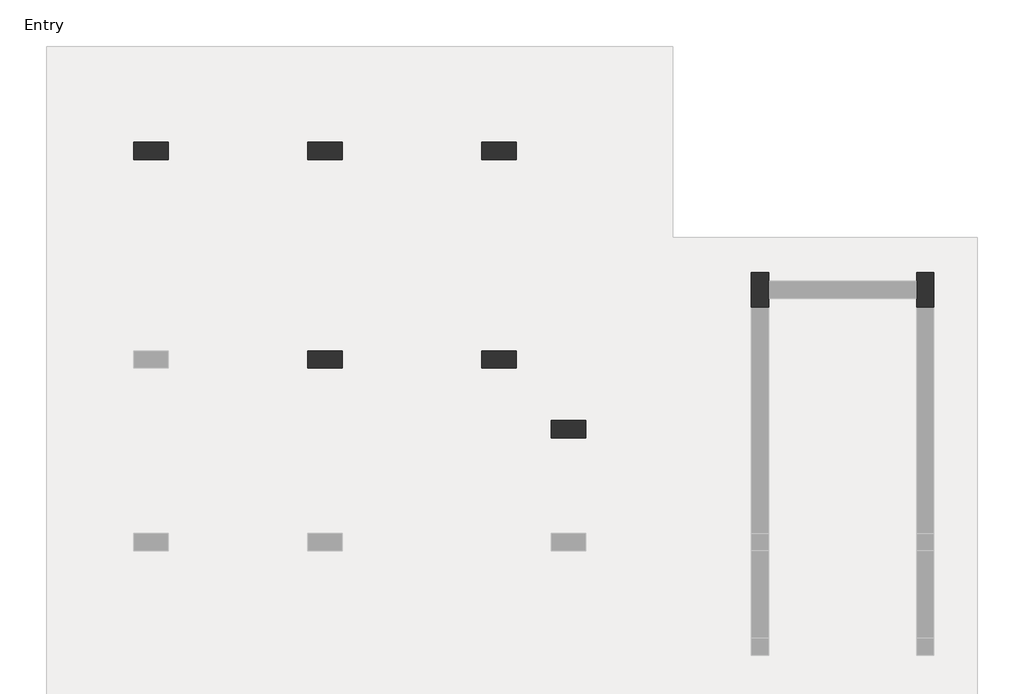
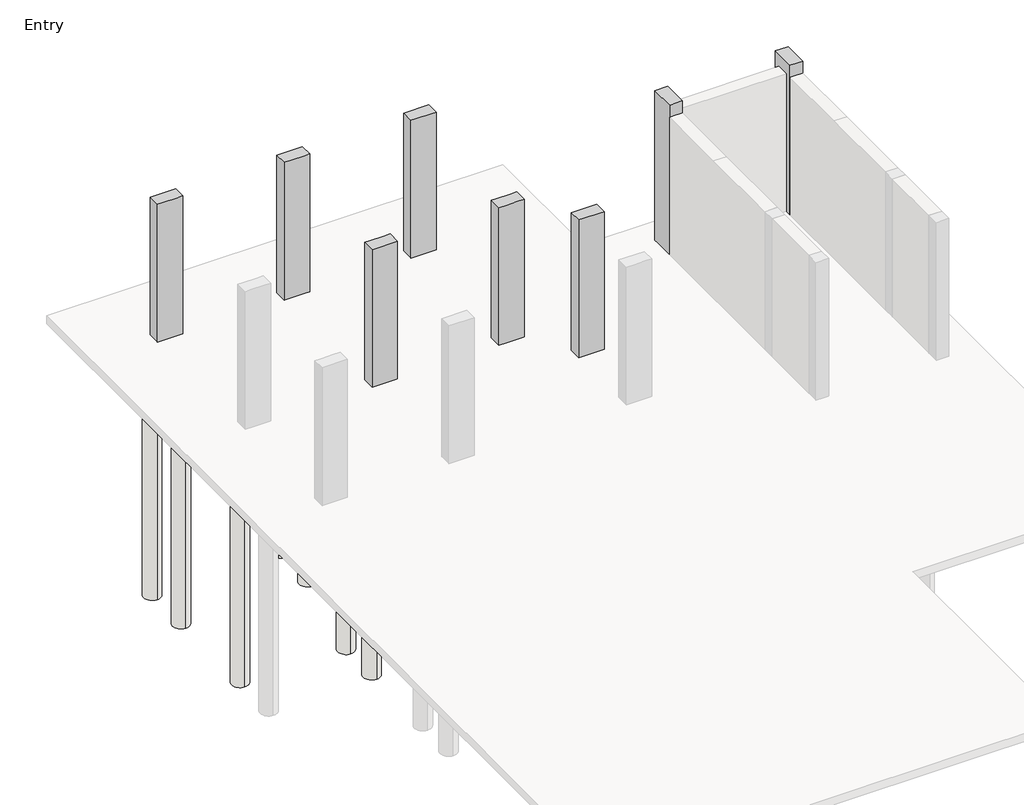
# One storey, part 3 of 3: 31 slabs, 15 columns, 3 footings.
"""IFC4 building model written with IfcOpenShell, lengths in millimetres."""

import ifcopenshell
import ifcopenshell.guid

model = None  # the IFC model being written
_history = None  # IfcOwnerHistory: only IFC2X3 demands one
_inside = {}  # id of a spatial element -> (the spatial element, [elements in it])
_under = {}  # id of a project, library or spatial element -> (it, [spatial elements below it])
_declared = {}  # id of a project -> (the project, [libraries it declares])
_typed = {}  # id of a type object -> (the type object, [elements of that type])
_made_of = {}  # id of a material, layer set ... -> (it, [elements and type objects made of it])


def new_model(schema):
    """Start an empty IFC model of exactly this schema.

    Asked for "IFC4X3", IfcOpenShell would pick the latest addendum, in which some entities
    have other attributes; the version numbers below select the first issue.
    IFC2X3 requires an IfcOwnerHistory on every rooted entity: one is made here for all.
    """
    global model, _history
    if schema == "IFC4X3":
        model = ifcopenshell.file(schema_version=(4, 3, 0, 0))
    else:
        model = ifcopenshell.file(schema=schema)
    _inside.clear()
    _under.clear()
    _declared.clear()
    _typed.clear()
    _made_of.clear()
    _history = None
    if model.schema == "IFC2X3":
        org = make("IfcOrganization", Name="unknown")
        user = make(
            "IfcPersonAndOrganization",
            ThePerson=make("IfcPerson", FamilyName="unknown"),
            TheOrganization=org,
        )
        app = make(
            "IfcApplication",
            ApplicationDeveloper=org,
            Version="unknown",
            ApplicationFullName="unknown",
            ApplicationIdentifier="unknown",
        )
        _history = make(
            "IfcOwnerHistory",
            OwningUser=user,
            OwningApplication=app,
            ChangeAction="ADDED",
            CreationDate=0,
        )
    return model


def make(cls, **values):
    """One entity of the class cls with the attributes given. An attribute that is None is left unset."""
    return model.create_entity(
        cls, **{name: value for name, value in values.items() if value is not None}
    )


def rooted(cls, **values):
    """An entity with a GlobalId (a new one), such as an element, a storey or a relation."""
    return make(cls, GlobalId=ifcopenshell.guid.new(), OwnerHistory=_history, **values)


def si_unit(unit_type, name, prefix=None):
    """IfcSIUnit, for example si_unit("LENGTHUNIT", "METRE", prefix="MILLI")."""
    return make("IfcSIUnit", UnitType=unit_type, Prefix=prefix, Name=name)


def assignment(units):
    """IfcUnitAssignment: the units of a project."""
    return None if units is None else make("IfcUnitAssignment", Units=units)


def point(xyz):
    """IfcCartesianPoint."""
    return None if xyz is None else make("IfcCartesianPoint", Coordinates=xyz)


def direction(xyz):
    """IfcDirection."""
    return None if xyz is None else make("IfcDirection", DirectionRatios=xyz)


def frame(location, z_axis=None, x_axis=None):
    """IfcAxis2Placement3D, a coordinate frame: its origin and axes. An axis left out is left unset."""
    return make(
        "IfcAxis2Placement3D",
        Location=point(location),
        Axis=direction(z_axis),
        RefDirection=direction(x_axis),
    )


def frame_2d(location, x_axis=None):
    """IfcAxis2Placement2D, a coordinate frame in the plane: its origin and x axis."""
    return make(
        "IfcAxis2Placement2D", Location=point(location), RefDirection=direction(x_axis)
    )


def origin():
    """The frame at (0, 0, 0) with its axes left unset."""
    return frame((0.0, 0.0, 0.0))


def place(relative_to, where):
    """IfcLocalPlacement: puts the frame where relative to a parent placement (None: the world)."""
    return make(
        "IfcLocalPlacement", PlacementRelTo=relative_to, RelativePlacement=where
    )


def context(
    kind, dimensions, precision=None, world=None, true_north=None, identifier=None
):
    """IfcGeometricRepresentationContext, for example the 3D "Model" context."""
    return make(
        "IfcGeometricRepresentationContext",
        ContextIdentifier=identifier,
        ContextType=kind,
        CoordinateSpaceDimension=dimensions,
        Precision=precision,
        WorldCoordinateSystem=world,
        TrueNorth=true_north,
    )


def project(units=None, contexts=None):
    """IfcProject with its units and contexts."""
    return rooted(
        "IfcProject",
        Name="project",
        RepresentationContexts=contexts,
        UnitsInContext=assignment(units),
    )


def spatial(cls, under=None, at=None, **own):
    """A site, building, storey or space (cls), placed at a placement, below another one or the project."""
    s = rooted(cls, ObjectPlacement=at, **own)
    if under is not None:
        _under.setdefault(under.id(), (under, []))[1].append(s)
    return s


def polyline(points):
    """IfcPolyline through the points."""
    return make("IfcPolyline", Points=[point(p) for p in points])


def circle_curve(where, radius):
    """IfcCircle in the frame where."""
    return make("IfcCircle", Position=where, Radius=radius)


def trimmed(basis, trim1, trim2, sense, master):
    """IfcTrimmedCurve: the piece of a basis curve between two trims."""
    return make(
        "IfcTrimmedCurve",
        BasisCurve=basis,
        Trim1=trim1,
        Trim2=trim2,
        SenseAgreement=sense,
        MasterRepresentation=master,
    )


def segment(curve, same_sense, transition):
    """IfcCompositeCurveSegment."""
    return make(
        "IfcCompositeCurveSegment",
        Transition=transition,
        SameSense=same_sense,
        ParentCurve=curve,
    )


def composite_curve(segments, self_intersect=None):
    """IfcCompositeCurve: segments joined end to end."""
    return make("IfcCompositeCurve", Segments=segments, SelfIntersect=self_intersect)


def outline(outer, holes=None, kind="AREA"):
    """IfcArbitraryClosedProfileDef: a profile drawn as a closed curve; with holes, ...WithVoids."""
    if holes is None:
        return make("IfcArbitraryClosedProfileDef", ProfileType=kind, OuterCurve=outer)
    return make(
        "IfcArbitraryProfileDefWithVoids",
        ProfileType=kind,
        OuterCurve=outer,
        InnerCurves=holes,
    )


def extrude(swept, where, along, depth):
    """IfcExtrudedAreaSolid: the profile swept, set in the frame where, extruded along a direction by depth."""
    return make(
        "IfcExtrudedAreaSolid",
        SweptArea=swept,
        Position=where,
        ExtrudedDirection=direction(along),
        Depth=depth,
    )


def faces_of(points, faces, orient=None, outer=None):
    """IfcFace entities. A face is a list of loops; a loop is a list of indices into points, from 0.

    orient and outer hold one flag for each loop. By default every Orientation is true, the
    first loop of a face is its IfcFaceOuterBound and the others are IfcFaceBound.
    """
    made = []
    for i, loops in enumerate(faces):
        bounds = []
        for j, loop in enumerate(loops):
            is_outer = j == 0 if outer is None else outer[i][j]
            bounds.append(
                make(
                    "IfcFaceOuterBound" if is_outer else "IfcFaceBound",
                    Bound=make("IfcPolyLoop", Polygon=[points[k] for k in loop]),
                    Orientation=True if orient is None else orient[i][j],
                )
            )
        made.append(make("IfcFace", Bounds=bounds))
    return made


def faceted_brep(points, faces, orient=None, outer=None, voids=None):
    """IfcFacetedBrep: a solid bounded by flat faces; with voids (closed shells), ...WithVoids."""
    shared = [point(p) for p in points]
    hull = make("IfcClosedShell", CfsFaces=faces_of(shared, faces, orient, outer))
    if voids is None:
        return make("IfcFacetedBrep", Outer=hull)
    return make(
        "IfcFacetedBrepWithVoids",
        Outer=hull,
        Voids=[
            make(cls, CfsFaces=faces_of(shared, fs, o, b)) for cls, fs, o, b in voids
        ],
    )


def shape(context_of_items, identifier, shape_type, items):
    """IfcShapeRepresentation: the items that make up one representation, for example the "Body"."""
    return make(
        "IfcShapeRepresentation",
        ContextOfItems=context_of_items,
        RepresentationIdentifier=identifier,
        RepresentationType=shape_type,
        Items=items,
    )


def made_of(thing, what):
    """Note that an element or type object is made of a material, layer set ...; save() writes the relation."""
    if what is not None:
        _made_of.setdefault(what.id(), (what, []))[1].append(thing)
    return thing


def element(
    cls,
    number,
    at=None,
    inside=None,
    cuts=None,
    type_object=None,
    material=None,
    context=None,
    identifier="Body",
    shape_type=None,
    held_by="IfcProductDefinitionShape",
    body=None,
    shapes=None,
    **own,
):
    """One element of the class cls, such as IfcWall. Its Tag is "e" and its number.

    at: its placement. inside: the storey or other place that contains it. cuts: it is an
    opening in that element (IfcRelVoidsElement). A single representation is given by context,
    identifier, shape_type and body (its items); several are given by shapes. held_by: the class
    of the entity that holds the representations. save() writes the other relations.
    """
    e = rooted(cls, Tag="e%d" % number, ObjectPlacement=at, **own)
    if body is not None:
        shapes = [shape(context, identifier, shape_type, body)]
    if shapes is not None:
        e.Representation = make(held_by, Representations=shapes)
    if inside is not None:
        _inside.setdefault(inside.id(), (inside, []))[1].append(e)
    if cuts is not None:
        rooted(
            "IfcRelVoidsElement", RelatingBuildingElement=cuts, RelatedOpeningElement=e
        )
    if type_object is not None:
        _typed.setdefault(type_object.id(), (type_object, []))[1].append(e)
    return made_of(e, material)


def aggregate(whole, parts):
    """IfcRelAggregates: a whole, such as a stair, and the parts it consists of."""
    return rooted("IfcRelAggregates", RelatingObject=whole, RelatedObjects=parts)


def save(model, path):
    """Write the relations noted so far, then the file.

    IfcRelAggregates (storeys below a building ...), IfcRelContainedInSpatialStructure (elements
    in a storey), IfcRelDefinesByType, IfcRelAssociatesMaterial and IfcRelDeclares: one each for
    every whole, place, type object, material and project.
    """
    for whole, parts in _under.values():
        aggregate(whole, parts)
    for where, things in _inside.values():
        rooted(
            "IfcRelContainedInSpatialStructure",
            RelatedElements=things,
            RelatingStructure=where,
        )
    for kind, things in _typed.values():
        rooted("IfcRelDefinesByType", RelatedObjects=things, RelatingType=kind)
    for what, things in _made_of.values():
        rooted("IfcRelAssociatesMaterial", RelatedObjects=things, RelatingMaterial=what)
    for by, libraries in _declared.values():
        rooted("IfcRelDeclares", RelatingContext=by, RelatedDefinitions=libraries)
    model.write(path)


model = new_model("IFC4")

# Units and contexts
model_context = context("Model", 3, world=origin())
ifc_project = project(units=[si_unit("LENGTHUNIT", "METRE", prefix="MILLI")], contexts=[model_context])

# Site, building, storey
site = spatial("IfcSite", under=ifc_project)
building = spatial("IfcBuilding", under=site)
storey = spatial("IfcBuildingStorey", under=building, Name="Entry", Elevation=0.0)

# Columns
placement = place(None, origin())
element("IfcColumn", 1, ObjectType="Concrete-Rectangular-Column : 12 x 24", at=placement, inside=storey, context=model_context, shape_type="Brep", body=[
    faceted_brep([(-15677.5554735, 14646.9867088, 0.0), (-15067.9554735, 14646.9867088, 0.0), (-15067.9554735, 14342.1867088, 0.0), (-15677.5554735, 14342.1867088, 0.0), (-15677.5554735, 14646.9867088, 3505.2), (-15067.9554735, 14646.9867088, 3505.2), (-15067.9554735, 14646.9867088, 2895.6), (-15067.9554735, 14342.1867088, 3505.2), (-15067.9554735, 14342.1867088, 2895.6), (-15220.3554735, 14342.1867088, 3505.2), (-15525.1554735, 14342.1867088, 3505.2), (-15677.5554735, 14342.1867088, 3505.2)], [[[0, 1, 2, 3]], [[4, 5, 6, 1, 0]], [[5, 7, 8, 2, 1, 6]], [[7, 9, 10, 11, 3, 2, 8]], [[11, 4, 0, 3]], [[4, 11, 10, 9, 7, 5]]]),
])
element("IfcColumn", 2, ObjectType="Concrete-Rectangular-Column : 12 x 24", at=placement, inside=storey, context=model_context, shape_type="Brep", body=[
    faceted_brep([(-12629.5554735, 14646.9867088, 0.0), (-12019.9554735, 14646.9867088, 0.0), (-12019.9554735, 14342.1867088, 0.0), (-12629.5554735, 14342.1867088, 0.0), (-12629.5554735, 14646.9867088, 3505.2), (-12019.9554735, 14646.9867088, 3505.2), (-12019.9554735, 14646.9867088, 2895.6), (-12629.5554735, 14646.9867088, 2895.6), (-12019.9554735, 14342.1867088, 3505.2), (-12019.9554735, 14342.1867088, 2895.6), (-12172.3554735, 14342.1867088, 3505.2), (-12477.1554735, 14342.1867088, 3505.2), (-12629.5554735, 14342.1867088, 3505.2), (-12629.5554735, 14342.1867088, 2895.6)], [[[0, 1, 2, 3]], [[4, 5, 6, 1, 0, 7]], [[5, 8, 9, 2, 1, 6]], [[8, 10, 11, 12, 13, 3, 2, 9]], [[12, 4, 7, 0, 3, 13]], [[4, 12, 11, 10, 8, 5]]]),
])
element("IfcColumn", 3, ObjectType="Concrete-Rectangular-Column : 12 x 24", at=placement, inside=storey, context=model_context, shape_type="Brep", body=[
    faceted_brep([(-9581.5554735, 14646.9867088, 0.0), (-8971.9554735, 14646.9867088, 0.0), (-8971.9554735, 14342.1867088, 0.0), (-9581.5554735, 14342.1867088, 0.0), (-9581.5554735, 14646.9867088, 3505.2), (-8971.9554735, 14646.9867088, 3505.2), (-9581.5554735, 14646.9867088, 2895.6), (-8971.9554735, 14342.1867088, 3505.2), (-9124.3554735, 14342.1867088, 3505.2), (-9429.1554735, 14342.1867088, 3505.2), (-9581.5554735, 14342.1867088, 3505.2), (-9581.5554735, 14342.1867088, 2895.6)], [[[0, 1, 2, 3]], [[4, 5, 1, 0, 6]], [[5, 7, 2, 1]], [[7, 8, 9, 10, 11, 3, 2]], [[10, 4, 6, 0, 3, 11]], [[4, 10, 9, 8, 7, 5]]]),
])
element("IfcColumn", 4, ObjectType="Concrete-Rectangular-Column : 12 x 24", at=placement, inside=storey, context=model_context, shape_type="Brep", body=[
    faceted_brep([(-12629.5554735, 10989.3867088, 0.0), (-12019.9554735, 10989.3867088, 0.0), (-12019.9554735, 10684.5867088, 0.0), (-12629.5554735, 10684.5867088, 0.0), (-12629.5554735, 10989.3867088, 3505.2), (-12477.1554735, 10989.3867088, 3505.2), (-12172.3554735, 10989.3867088, 3505.2), (-12019.9554735, 10989.3867088, 3505.2), (-12019.9554735, 10989.3867088, 2895.6), (-12629.5554735, 10989.3867088, 2895.6), (-12019.9554735, 10684.5867088, 3505.2), (-12019.9554735, 10684.5867088, 2895.6), (-12172.3554735, 10684.5867088, 3505.2), (-12477.1554735, 10684.5867088, 3505.2), (-12629.5554735, 10684.5867088, 3505.2), (-12629.5554735, 10684.5867088, 2895.6)], [[[0, 1, 2, 3]], [[4, 5, 6, 7, 8, 1, 0, 9]], [[7, 10, 11, 2, 1, 8]], [[10, 12, 13, 14, 15, 3, 2, 11]], [[14, 4, 9, 0, 3, 15]], [[4, 14, 13, 12, 10, 7, 6, 5]]]),
])
element("IfcColumn", 5, ObjectType="Concrete-Rectangular-Column : 12 x 24", at=placement, inside=storey, context=model_context, shape_type="Brep", body=[
    faceted_brep([(-9581.5554735, 10989.3867088, 0.0), (-8971.9554735, 10989.3867088, 0.0), (-8971.9554735, 10684.5867088, 0.0), (-9581.5554735, 10684.5867088, 0.0), (-9581.5554735, 10989.3867088, 3505.2), (-9429.1554735, 10989.3867088, 3505.2), (-9124.3554735, 10989.3867088, 3505.2), (-8971.9554735, 10989.3867088, 3505.2), (-9581.5554735, 10989.3867088, 2895.6), (-8971.9554735, 10684.5867088, 3505.2), (-9124.3554735, 10684.5867088, 3505.2), (-9429.1554735, 10684.5867088, 3505.2), (-9581.5554735, 10684.5867088, 3505.2), (-9581.5554735, 10684.5867088, 2895.6)], [[[0, 1, 2, 3]], [[4, 5, 6, 7, 1, 0, 8]], [[7, 9, 2, 1]], [[9, 10, 11, 12, 13, 3, 2]], [[12, 4, 8, 0, 3, 13]], [[4, 12, 11, 10, 9, 7, 6, 5]]]),
])
element("IfcColumn", 6, ObjectType="Concrete-Rectangular-Column : 12 x 24", at=placement, inside=storey, context=model_context, shape_type="Brep", body=[
    faceted_brep([(-8362.3554735, 9770.1867088, 0.0), (-7752.7554735, 9770.1867088, 0.0), (-7752.7554735, 9465.3867088, 0.0), (-8362.3554735, 9465.3867088, 0.0), (-8362.3554735, 9770.1867088, 3505.2), (-7752.7554735, 9770.1867088, 3505.2), (-8362.3554735, 9770.1867088, 2895.6), (-7752.7554735, 9465.3867088, 3505.2), (-7905.1554735, 9465.3867088, 3505.2), (-8209.9554735, 9465.3867088, 3505.2), (-8362.3554735, 9465.3867088, 3505.2), (-8362.3554735, 9465.3867088, 2895.6)], [[[0, 1, 2, 3]], [[4, 5, 1, 0, 6]], [[5, 7, 2, 1]], [[7, 8, 9, 10, 11, 3, 2]], [[10, 4, 6, 0, 3, 11]], [[4, 10, 9, 8, 7, 5]]]),
])
element("IfcColumn", 7, ObjectType="Concrete-Rectangular-Column : 12 x 24", at=placement, inside=storey, context=model_context, shape_type="Brep", body=[
    faceted_brep([(-4552.3554735, 12360.9867088, 0.0), (-4552.3554735, 12208.5867088, 0.0), (-4552.3554735, 11903.7867088, 0.0), (-4552.3554735, 11751.3867088, 0.0), (-4857.1554735, 11751.3867088, 0.0), (-4857.1554735, 12360.9867088, 0.0), (-4552.3554735, 12360.9867088, 3810.0), (-4552.3554735, 11751.3867088, 3810.0), (-4552.3554735, 11751.3867088, 3505.2), (-4857.1554735, 11751.3867088, 3810.0), (-4857.1554735, 11751.3867088, 3505.2), (-4857.1554735, 12360.9867088, 3810.0)], [[[0, 1, 2, 3, 4, 5]], [[6, 7, 8, 3, 2, 1, 0]], [[7, 9, 10, 4, 3, 8]], [[9, 11, 5, 4, 10]], [[11, 6, 0, 5]], [[6, 11, 9, 7]]]),
])
element("IfcColumn", 8, ObjectType="Concrete-Rectangular-Column : 12 x 24", at=placement, inside=storey, context=model_context, shape_type="Brep", body=[
    faceted_brep([(-1656.7554735, 12360.9867088, 0.0), (-1656.7554735, 11751.3867088, 0.0), (-1961.5554735, 11751.3867088, 0.0), (-1961.5554735, 11903.7867088, 0.0), (-1961.5554735, 12208.5867088, 0.0), (-1961.5554735, 12360.9867088, 0.0), (-1656.7554735, 12360.9867088, 3810.0), (-1656.7554735, 11751.3867088, 3810.0), (-1656.7554735, 11751.3867088, 3505.2), (-1961.5554735, 11751.3867088, 3810.0), (-1961.5554735, 11751.3867088, 3505.2), (-1961.5554735, 12360.9867088, 3810.0)], [[[0, 1, 2, 3, 4, 5]], [[6, 7, 8, 1, 0]], [[7, 9, 10, 2, 1, 8]], [[9, 11, 5, 4, 3, 2, 10]], [[11, 6, 0, 5]], [[6, 11, 9, 7]]]),
])
element("IfcColumn", 9, ObjectType="Concrete-Rectangular-Column : 12 x 24", at=placement, inside=storey, context=model_context, shape_type="Brep", body=[
    faceted_brep([(-15677.5554735, 14646.9867088, 0.0), (-15067.9554735, 14646.9867088, 0.0), (-15067.9554735, 14342.1867088, 0.0), (-15677.5554735, 14342.1867088, 0.0), (-15677.5554735, 14646.9867088, 3505.2), (-15067.9554735, 14646.9867088, 3505.2), (-15067.9554735, 14646.9867088, 2895.6), (-15067.9554735, 14342.1867088, 3505.2), (-15067.9554735, 14342.1867088, 2895.6), (-15220.3554735, 14342.1867088, 3505.2), (-15525.1554735, 14342.1867088, 3505.2), (-15677.5554735, 14342.1867088, 3505.2)], [[[0, 1, 2, 3]], [[4, 5, 6, 1, 0]], [[5, 7, 8, 2, 1, 6]], [[7, 9, 10, 11, 3, 2, 8]], [[11, 4, 0, 3]], [[4, 11, 10, 9, 7, 5]]]),
])
element("IfcColumn", 10, ObjectType="Concrete-Rectangular-Column : 12 x 24", at=placement, inside=storey, context=model_context, shape_type="Brep", body=[
    faceted_brep([(-12629.5554735, 14646.9867088, 0.0), (-12019.9554735, 14646.9867088, 0.0), (-12019.9554735, 14342.1867088, 0.0), (-12629.5554735, 14342.1867088, 0.0), (-12629.5554735, 14646.9867088, 3505.2), (-12019.9554735, 14646.9867088, 3505.2), (-12019.9554735, 14646.9867088, 2895.6), (-12629.5554735, 14646.9867088, 2895.6), (-12019.9554735, 14342.1867088, 3505.2), (-12019.9554735, 14342.1867088, 2895.6), (-12172.3554735, 14342.1867088, 3505.2), (-12477.1554735, 14342.1867088, 3505.2), (-12629.5554735, 14342.1867088, 3505.2), (-12629.5554735, 14342.1867088, 2895.6)], [[[0, 1, 2, 3]], [[4, 5, 6, 1, 0, 7]], [[5, 8, 9, 2, 1, 6]], [[8, 10, 11, 12, 13, 3, 2, 9]], [[12, 4, 7, 0, 3, 13]], [[4, 12, 11, 10, 8, 5]]]),
])
element("IfcColumn", 11, ObjectType="Concrete-Rectangular-Column : 12 x 24", at=placement, inside=storey, context=model_context, shape_type="Brep", body=[
    faceted_brep([(-9581.5554735, 14646.9867088, 0.0), (-8971.9554735, 14646.9867088, 0.0), (-8971.9554735, 14342.1867088, 0.0), (-9581.5554735, 14342.1867088, 0.0), (-9581.5554735, 14646.9867088, 3505.2), (-8971.9554735, 14646.9867088, 3505.2), (-9581.5554735, 14646.9867088, 2895.6), (-8971.9554735, 14342.1867088, 3505.2), (-9124.3554735, 14342.1867088, 3505.2), (-9429.1554735, 14342.1867088, 3505.2), (-9581.5554735, 14342.1867088, 3505.2), (-9581.5554735, 14342.1867088, 2895.6)], [[[0, 1, 2, 3]], [[4, 5, 1, 0, 6]], [[5, 7, 2, 1]], [[7, 8, 9, 10, 11, 3, 2]], [[10, 4, 6, 0, 3, 11]], [[4, 10, 9, 8, 7, 5]]]),
])
element("IfcColumn", 12, ObjectType="Concrete-Rectangular-Column : 12 x 24", at=placement, inside=storey, context=model_context, shape_type="Brep", body=[
    faceted_brep([(-12629.5554735, 10989.3867088, 0.0), (-12019.9554735, 10989.3867088, 0.0), (-12019.9554735, 10684.5867088, 0.0), (-12629.5554735, 10684.5867088, 0.0), (-12629.5554735, 10989.3867088, 3505.2), (-12477.1554735, 10989.3867088, 3505.2), (-12172.3554735, 10989.3867088, 3505.2), (-12019.9554735, 10989.3867088, 3505.2), (-12019.9554735, 10989.3867088, 2895.6), (-12629.5554735, 10989.3867088, 2895.6), (-12019.9554735, 10684.5867088, 3505.2), (-12019.9554735, 10684.5867088, 2895.6), (-12172.3554735, 10684.5867088, 3505.2), (-12477.1554735, 10684.5867088, 3505.2), (-12629.5554735, 10684.5867088, 3505.2), (-12629.5554735, 10684.5867088, 2895.6)], [[[0, 1, 2, 3]], [[4, 5, 6, 7, 8, 1, 0, 9]], [[7, 10, 11, 2, 1, 8]], [[10, 12, 13, 14, 15, 3, 2, 11]], [[14, 4, 9, 0, 3, 15]], [[4, 14, 13, 12, 10, 7, 6, 5]]]),
])
element("IfcColumn", 13, ObjectType="Concrete-Rectangular-Column : 12 x 24", at=placement, inside=storey, context=model_context, shape_type="Brep", body=[
    faceted_brep([(-9581.5554735, 10989.3867088, 0.0), (-8971.9554735, 10989.3867088, 0.0), (-8971.9554735, 10684.5867088, 0.0), (-9581.5554735, 10684.5867088, 0.0), (-9581.5554735, 10989.3867088, 3505.2), (-9429.1554735, 10989.3867088, 3505.2), (-9124.3554735, 10989.3867088, 3505.2), (-8971.9554735, 10989.3867088, 3505.2), (-9581.5554735, 10989.3867088, 2895.6), (-8971.9554735, 10684.5867088, 3505.2), (-9124.3554735, 10684.5867088, 3505.2), (-9429.1554735, 10684.5867088, 3505.2), (-9581.5554735, 10684.5867088, 3505.2), (-9581.5554735, 10684.5867088, 2895.6)], [[[0, 1, 2, 3]], [[4, 5, 6, 7, 1, 0, 8]], [[7, 9, 2, 1]], [[9, 10, 11, 12, 13, 3, 2]], [[12, 4, 8, 0, 3, 13]], [[4, 12, 11, 10, 9, 7, 6, 5]]]),
])
element("IfcColumn", 14, ObjectType="Concrete-Rectangular-Column : 12 x 24", at=placement, inside=storey, context=model_context, shape_type="Brep", body=[
    faceted_brep([(-8362.3554735, 9770.1867088, 0.0), (-7752.7554735, 9770.1867088, 0.0), (-7752.7554735, 9465.3867088, 0.0), (-8362.3554735, 9465.3867088, 0.0), (-8362.3554735, 9770.1867088, 3505.2), (-7752.7554735, 9770.1867088, 3505.2), (-8362.3554735, 9770.1867088, 2895.6), (-7752.7554735, 9465.3867088, 3505.2), (-7905.1554735, 9465.3867088, 3505.2), (-8209.9554735, 9465.3867088, 3505.2), (-8362.3554735, 9465.3867088, 3505.2), (-8362.3554735, 9465.3867088, 2895.6)], [[[0, 1, 2, 3]], [[4, 5, 1, 0, 6]], [[5, 7, 2, 1]], [[7, 8, 9, 10, 11, 3, 2]], [[10, 4, 6, 0, 3, 11]], [[4, 10, 9, 8, 7, 5]]]),
])
element("IfcColumn", 15, ObjectType="Concrete-Rectangular-Column : 12 x 24", at=placement, inside=storey, context=model_context, shape_type="Brep", body=[
    faceted_brep([(-4552.3554735, 12360.9867088, 0.0), (-4552.3554735, 12208.5867088, 0.0), (-4552.3554735, 11903.7867088, 0.0), (-4552.3554735, 11751.3867088, 0.0), (-4857.1554735, 11751.3867088, 0.0), (-4857.1554735, 12360.9867088, 0.0), (-4552.3554735, 12360.9867088, 3810.0), (-4552.3554735, 11751.3867088, 3810.0), (-4552.3554735, 11751.3867088, 3505.2), (-4857.1554735, 11751.3867088, 3810.0), (-4857.1554735, 11751.3867088, 3505.2), (-4857.1554735, 12360.9867088, 3810.0)], [[[0, 1, 2, 3, 4, 5]], [[6, 7, 8, 3, 2, 1, 0]], [[7, 9, 10, 4, 3, 8]], [[9, 11, 5, 4, 10]], [[11, 6, 0, 5]], [[6, 11, 9, 7]]]),
])

# Footings
element("IfcFooting", 16, ObjectType="Bearing Footing - 36\" x 12\"", at=placement, inside=storey, context=model_context, shape_type="Brep", body=[
    faceted_brep([(-4552.3554735, 12513.3867088, -304.8), (-4552.3554735, 12462.5867088, -304.8), (-4552.3554735, 12462.5867088, -203.2), (-4552.3554735, 12513.3867088, -203.2), (-4552.3554735, 11649.7867088, -304.8), (-4552.3554735, 11598.9867088, -304.8), (-4552.3554735, 11598.9867088, -203.2), (-4552.3554735, 11649.7867088, -203.2), (-1961.5554735, 12462.5867088, -304.8), (-1961.5554735, 12513.3867088, -304.8), (-1961.5554735, 12513.3867088, -203.2), (-1961.5554735, 12462.5867088, -203.2), (-1961.5554735, 11598.9867088, -304.8), (-1961.5554735, 11649.7867088, -304.8), (-1961.5554735, 11649.7867088, -203.2), (-1961.5554735, 11598.9867088, -203.2), (-2710.8554735, 12462.5867088, -304.8), (-2710.8554735, 11649.7867088, -304.8), (-2266.3554735, 11598.9867088, -304.8), (-4247.5554735, 11598.9867088, -304.8), (-3803.0554735, 11649.7867088, -304.8), (-3803.0554735, 12462.5867088, -304.8), (-2266.3554735, 11598.9867088, -203.2), (-4247.5554735, 11598.9867088, -203.2), (-3803.0554735, 12462.5867088, -203.2), (-3803.0554735, 11649.7867088, -203.2), (-2710.8554735, 11649.7867088, -203.2), (-2710.8554735, 12462.5867088, -203.2)], [[[0, 1, 2, 3]], [[4, 5, 6, 7]], [[8, 9, 10, 11]], [[12, 13, 14, 15]], [[9, 0, 3, 10]], [[0, 9, 8, 16, 17, 13, 12, 18, 19, 5, 4, 20, 21, 1]], [[5, 19, 18, 12, 15, 22, 23, 6]], [[3, 2, 24, 25, 7, 6, 23, 22, 15, 14, 26, 27, 11, 10]], [[1, 21, 24, 2]], [[20, 4, 7, 25]], [[21, 20, 25, 24]], [[16, 8, 11, 27]], [[17, 16, 27, 26]], [[13, 17, 26, 14]]]),
])
element("IfcFooting", 17, ObjectType="Bearing Footing - 36\" x 12\"", at=placement, inside=storey, context=model_context, shape_type="SweptSolid", body=[
    extrude(outline(polyline([(-1351.9554735, 11649.7867088), (-1351.9554735, 7788.9867088), (-1402.7554735, 7788.9867088), (-1402.7554735, 8538.2867088), (-2215.5554735, 8538.2867088), (-2215.5554735, 7788.9867088), (-2266.3554735, 7788.9867088), (-2266.3554735, 11598.9867088), (-1961.5554735, 11598.9867088), (-1961.5554735, 11649.7867088), (-1351.9554735, 11649.7867088)])), frame((0.0, 0.0, -304.8), z_axis=(0.0, 0.0, 1.0), x_axis=(1.0, 0.0, 0.0)), (0.0, 0.0, 1.0), 101.6),
])
element("IfcFooting", 18, ObjectType="Bearing Footing - 36\" x 12\"", at=placement, inside=storey, context=model_context, shape_type="SweptSolid", body=[
    extrude(outline(polyline([(-5161.9554735, 7788.9867088), (-5161.9554735, 11649.7867088), (-4552.3554735, 11649.7867088), (-4552.3554735, 11598.9867088), (-4247.5554735, 11598.9867088), (-4247.5554735, 7788.9867088), (-4298.3554735, 7788.9867088), (-4298.3554735, 8538.2867088), (-5111.1554735, 8538.2867088), (-5111.1554735, 7788.9867088), (-5161.9554735, 7788.9867088)])), frame((0.0, 0.0, -304.8), z_axis=(0.0, 0.0, 1.0), x_axis=(1.0, 0.0, 0.0)), (0.0, 0.0, 1.0), 101.6),
])

# Slabs
element("IfcSlab", 19, ObjectType="Pile Cap-2 Pile : 31\"x61\"x35\"", at=placement, inside=storey, context=model_context, shape_type="SweptSolid", body=[
    extrude(outline(polyline([(-15779.1554735, 15396.2867088), (-14966.3554735, 15396.2867088), (-14966.3554735, 13592.8867088), (-15779.1554735, 13592.8867088), (-15779.1554735, 15396.2867088)])), frame((0.0, 0.0, -889.0), z_axis=(0.0, 0.0, 1.0), x_axis=(1.0, 0.0, 0.0)), (0.0, 0.0, 1.0), 685.8),
])
element("IfcSlab", 20, ObjectType="Pile Cap-2 Pile : 31\"x61\"x35\"", at=placement, inside=storey, context=model_context, shape_type="SweptSolid", body=[
    extrude(outline(polyline([(-12731.1554735, 15396.2867088), (-11918.3554735, 15396.2867088), (-11918.3554735, 13592.8867088), (-12731.1554735, 13592.8867088), (-12731.1554735, 15396.2867088)])), frame((0.0, 0.0, -889.0), z_axis=(0.0, 0.0, 1.0), x_axis=(1.0, 0.0, 0.0)), (0.0, 0.0, 1.0), 685.8),
])
element("IfcSlab", 21, ObjectType="Pile Cap-2 Pile : 31\"x61\"x35\"", at=placement, inside=storey, context=model_context, shape_type="SweptSolid", body=[
    extrude(outline(polyline([(-9683.1554735, 15396.2867088), (-8870.3554735, 15396.2867088), (-8870.3554735, 13592.8867088), (-9683.1554735, 13592.8867088), (-9683.1554735, 15396.2867088)])), frame((0.0, 0.0, -889.0), z_axis=(0.0, 0.0, 1.0), x_axis=(1.0, 0.0, 0.0)), (0.0, 0.0, 1.0), 685.8),
])
element("IfcSlab", 22, ObjectType="Pile Cap-2 Pile : 31\"x61\"x35\"", at=placement, inside=storey, context=model_context, shape_type="SweptSolid", body=[
    extrude(outline(polyline([(-9683.1554735, 11738.6867088), (-8870.3554735, 11738.6867088), (-8870.3554735, 9935.2867088), (-9683.1554735, 9935.2867088), (-9683.1554735, 11738.6867088)])), frame((0.0, 0.0, -889.0), z_axis=(0.0, 0.0, 1.0), x_axis=(1.0, 0.0, 0.0)), (0.0, 0.0, 1.0), 685.8),
])
element("IfcSlab", 23, ObjectType="Pile Cap-2 Pile : 31\"x61\"x35\"", at=placement, inside=storey, context=model_context, shape_type="Brep", body=[
    faceted_brep([(-3803.0554735, 12462.5867088, -889.0), (-3803.0554735, 11649.7867088, -889.0), (-5606.4554735, 11649.7867088, -889.0), (-5606.4554735, 12462.5867088, -889.0), (-5606.4554735, 12462.5867088, -203.2), (-4552.3554735, 12462.5867088, -203.2), (-3803.0554735, 12462.5867088, -203.2), (-3803.0554735, 12462.5867088, -304.8), (-5606.4554735, 11649.7867088, -203.2), (-3803.0554735, 11649.7867088, -304.8), (-3803.0554735, 11649.7867088, -203.2), (-4552.3554735, 11649.7867088, -203.2), (-5161.9554735, 11649.7867088, -203.2)], [[[0, 1, 2, 3]], [[0, 3, 4, 5, 6, 7]], [[3, 2, 8, 4]], [[2, 1, 9, 10, 11, 12, 8]], [[1, 0, 7, 6, 10, 9]], [[6, 5, 4, 8, 12, 11, 10]]]),
])
element("IfcSlab", 24, ObjectType="Pile Cap-2 Pile : 31\"x61\"x35\"", at=placement, inside=storey, context=model_context, shape_type="Brep", body=[
    faceted_brep([(-907.4554735, 12462.5867088, -889.0), (-907.4554735, 11649.7867088, -889.0), (-2710.8554735, 11649.7867088, -889.0), (-2710.8554735, 12462.5867088, -889.0), (-2710.8554735, 12462.5867088, -304.8), (-2710.8554735, 12462.5867088, -203.2), (-1961.5554735, 12462.5867088, -203.2), (-907.4554735, 12462.5867088, -203.2), (-2710.8554735, 11649.7867088, -304.8), (-2710.8554735, 11649.7867088, -203.2), (-907.4554735, 11649.7867088, -203.2), (-1351.9554735, 11649.7867088, -203.2), (-1961.5554735, 11649.7867088, -203.2)], [[[0, 1, 2, 3]], [[0, 3, 4, 5, 6, 7]], [[3, 2, 8, 9, 5, 4]], [[2, 1, 10, 11, 12, 9, 8]], [[1, 0, 7, 10]], [[7, 6, 5, 9, 12, 11, 10]]]),
])
element("IfcSlab", 25, ObjectType="Pile Cap-2 Pile : 31\"x61\"x35\"", at=placement, inside=storey, context=model_context, shape_type="SweptSolid", body=[
    extrude(outline(polyline([(-8463.9554735, 10519.4867088), (-7651.1554735, 10519.4867088), (-7651.1554735, 8716.0867088), (-8463.9554735, 8716.0867088), (-8463.9554735, 10519.4867088)])), frame((0.0, 0.0, -889.0), z_axis=(0.0, 0.0, 1.0), x_axis=(1.0, 0.0, 0.0)), (0.0, 0.0, 1.0), 685.8),
])
element("IfcSlab", 26, ObjectType="Pile Cap-4 Pile : 72\"x72\"x35\"", at=placement, inside=storey, context=model_context, shape_type="SweptSolid", body=[
    extrude(outline(polyline([(-13239.1554735, 11751.3867088), (-11410.3554735, 11751.3867088), (-11410.3554735, 9922.5867088), (-13239.1554735, 9922.5867088), (-13239.1554735, 11751.3867088)])), frame((0.0, 0.0, -889.0), z_axis=(0.0, 0.0, 1.0), x_axis=(1.0, 0.0, 0.0)), (0.0, 0.0, 1.0), 685.8),
])
element("IfcSlab", 27, ObjectType="Pile-Steel Pipe : 16\" Diameter", at=placement, inside=storey, context=model_context, shape_type="SweptSolid", body=[
    extrude(outline(composite_curve([segment(trimmed(circle_curve(frame_2d((-12858.1554735, 10303.5867088)), 203.2), [point((-12858.1554735, 10100.3867088))], [point((-12858.1554735, 10506.7867088))], False, "CARTESIAN"), True, "CONTINUOUS"), segment(trimmed(circle_curve(frame_2d((-12858.1554735, 10303.5867088)), 203.2), [point((-12858.1554735, 10506.7867088))], [point((-12858.1554735, 10100.3867088))], False, "CARTESIAN"), True, "CONTINUOUS")], self_intersect=False)), frame((0.0, 0.0, -6985.0), z_axis=(0.0, 0.0, 1.0), x_axis=(1.0, 0.0, 0.0)), (0.0, 0.0, 1.0), 6096.0),
])
element("IfcSlab", 28, ObjectType="Pile-Steel Pipe : 16\" Diameter", at=placement, inside=storey, context=model_context, shape_type="SweptSolid", body=[
    extrude(outline(composite_curve([segment(trimmed(circle_curve(frame_2d((-11791.3554735, 10303.5867088)), 203.2), [point((-11791.3554735, 10100.3867088))], [point((-11791.3554735, 10506.7867088))], False, "CARTESIAN"), True, "CONTINUOUS"), segment(trimmed(circle_curve(frame_2d((-11791.3554735, 10303.5867088)), 203.2), [point((-11791.3554735, 10506.7867088))], [point((-11791.3554735, 10100.3867088))], False, "CARTESIAN"), True, "CONTINUOUS")], self_intersect=False)), frame((0.0, 0.0, -6985.0), z_axis=(0.0, 0.0, 1.0), x_axis=(1.0, 0.0, 0.0)), (0.0, 0.0, 1.0), 6096.0),
])
element("IfcSlab", 29, ObjectType="Pile-Steel Pipe : 16\" Diameter", at=placement, inside=storey, context=model_context, shape_type="SweptSolid", body=[
    extrude(outline(composite_curve([segment(trimmed(circle_curve(frame_2d((-11791.3554735, 11370.3867088)), 203.2), [point((-11791.3554735, 11167.1867088))], [point((-11791.3554735, 11573.5867088))], False, "CARTESIAN"), True, "CONTINUOUS"), segment(trimmed(circle_curve(frame_2d((-11791.3554735, 11370.3867088)), 203.2), [point((-11791.3554735, 11573.5867088))], [point((-11791.3554735, 11167.1867088))], False, "CARTESIAN"), True, "CONTINUOUS")], self_intersect=False)), frame((0.0, 0.0, -6985.0), z_axis=(0.0, 0.0, 1.0), x_axis=(1.0, 0.0, 0.0)), (0.0, 0.0, 1.0), 6096.0),
])
element("IfcSlab", 30, ObjectType="Pile-Steel Pipe : 16\" Diameter", at=placement, inside=storey, context=model_context, shape_type="SweptSolid", body=[
    extrude(outline(composite_curve([segment(trimmed(circle_curve(frame_2d((-12858.1554735, 11370.3867088)), 203.2), [point((-12858.1554735, 11167.1867088))], [point((-12858.1554735, 11573.5867088))], False, "CARTESIAN"), True, "CONTINUOUS"), segment(trimmed(circle_curve(frame_2d((-12858.1554735, 11370.3867088)), 203.2), [point((-12858.1554735, 11573.5867088))], [point((-12858.1554735, 11167.1867088))], False, "CARTESIAN"), True, "CONTINUOUS")], self_intersect=False)), frame((0.0, 0.0, -6985.0), z_axis=(0.0, 0.0, 1.0), x_axis=(1.0, 0.0, 0.0)), (0.0, 0.0, 1.0), 6096.0),
])
element("IfcSlab", 31, ObjectType="Pile-Steel Pipe : 16\" Diameter", at=placement, inside=storey, context=model_context, shape_type="SweptSolid", body=[
    extrude(outline(composite_curve([segment(trimmed(circle_curve(frame_2d((-11791.3554735, 8169.9867088)), 203.2), [point((-11791.3554735, 7966.7867088))], [point((-11791.3554735, 8373.1867088))], False, "CARTESIAN"), True, "CONTINUOUS"), segment(trimmed(circle_curve(frame_2d((-11791.3554735, 8169.9867088)), 203.2), [point((-11791.3554735, 8373.1867088))], [point((-11791.3554735, 7966.7867088))], False, "CARTESIAN"), True, "CONTINUOUS")], self_intersect=False)), frame((0.0, 0.0, -6985.0), z_axis=(0.0, 0.0, 1.0), x_axis=(1.0, 0.0, 0.0)), (0.0, 0.0, 1.0), 6096.0),
])
element("IfcSlab", 32, ObjectType="Pile-Steel Pipe : 16\" Diameter", at=placement, inside=storey, context=model_context, shape_type="SweptSolid", body=[
    extrude(outline(composite_curve([segment(trimmed(circle_curve(frame_2d((-15372.7554735, 15091.4867088)), 203.2), [point((-15372.7554735, 14888.2867088))], [point((-15372.7554735, 15294.6867088))], False, "CARTESIAN"), True, "CONTINUOUS"), segment(trimmed(circle_curve(frame_2d((-15372.7554735, 15091.4867088)), 203.2), [point((-15372.7554735, 15294.6867088))], [point((-15372.7554735, 14888.2867088))], False, "CARTESIAN"), True, "CONTINUOUS")], self_intersect=False)), frame((0.0, 0.0, -6985.0), z_axis=(0.0, 0.0, 1.0), x_axis=(1.0, 0.0, 0.0)), (0.0, 0.0, 1.0), 6096.0),
])
element("IfcSlab", 33, ObjectType="Pile-Steel Pipe : 16\" Diameter", at=placement, inside=storey, context=model_context, shape_type="SweptSolid", body=[
    extrude(outline(composite_curve([segment(trimmed(circle_curve(frame_2d((-15372.7554735, 13897.6867088)), 203.2), [point((-15372.7554735, 13694.4867088))], [point((-15372.7554735, 14100.8867088))], False, "CARTESIAN"), True, "CONTINUOUS"), segment(trimmed(circle_curve(frame_2d((-15372.7554735, 13897.6867088)), 203.2), [point((-15372.7554735, 14100.8867088))], [point((-15372.7554735, 13694.4867088))], False, "CARTESIAN"), True, "CONTINUOUS")], self_intersect=False)), frame((0.0, 0.0, -6985.0), z_axis=(0.0, 0.0, 1.0), x_axis=(1.0, 0.0, 0.0)), (0.0, 0.0, 1.0), 6096.0),
])
element("IfcSlab", 34, ObjectType="Pile-Steel Pipe : 16\" Diameter", at=placement, inside=storey, context=model_context, shape_type="SweptSolid", body=[
    extrude(outline(composite_curve([segment(trimmed(circle_curve(frame_2d((-12324.7554735, 15091.4867088)), 203.2), [point((-12324.7554735, 14888.2867088))], [point((-12324.7554735, 15294.6867088))], False, "CARTESIAN"), True, "CONTINUOUS"), segment(trimmed(circle_curve(frame_2d((-12324.7554735, 15091.4867088)), 203.2), [point((-12324.7554735, 15294.6867088))], [point((-12324.7554735, 14888.2867088))], False, "CARTESIAN"), True, "CONTINUOUS")], self_intersect=False)), frame((0.0, 0.0, -6985.0), z_axis=(0.0, 0.0, 1.0), x_axis=(1.0, 0.0, 0.0)), (0.0, 0.0, 1.0), 6096.0),
])
element("IfcSlab", 35, ObjectType="Pile-Steel Pipe : 16\" Diameter", at=placement, inside=storey, context=model_context, shape_type="SweptSolid", body=[
    extrude(outline(composite_curve([segment(trimmed(circle_curve(frame_2d((-12324.7554735, 13897.6867088)), 203.2), [point((-12324.7554735, 13694.4867088))], [point((-12324.7554735, 14100.8867088))], False, "CARTESIAN"), True, "CONTINUOUS"), segment(trimmed(circle_curve(frame_2d((-12324.7554735, 13897.6867088)), 203.2), [point((-12324.7554735, 14100.8867088))], [point((-12324.7554735, 13694.4867088))], False, "CARTESIAN"), True, "CONTINUOUS")], self_intersect=False)), frame((0.0, 0.0, -6985.0), z_axis=(0.0, 0.0, 1.0), x_axis=(1.0, 0.0, 0.0)), (0.0, 0.0, 1.0), 6096.0),
])
element("IfcSlab", 36, ObjectType="Pile-Steel Pipe : 16\" Diameter", at=placement, inside=storey, context=model_context, shape_type="SweptSolid", body=[
    extrude(outline(composite_curve([segment(trimmed(circle_curve(frame_2d((-9276.7554735, 15091.4867088)), 203.2), [point((-9276.7554735, 14888.2867088))], [point((-9276.7554735, 15294.6867088))], False, "CARTESIAN"), True, "CONTINUOUS"), segment(trimmed(circle_curve(frame_2d((-9276.7554735, 15091.4867088)), 203.2), [point((-9276.7554735, 15294.6867088))], [point((-9276.7554735, 14888.2867088))], False, "CARTESIAN"), True, "CONTINUOUS")], self_intersect=False)), frame((0.0, 0.0, -6985.0), z_axis=(0.0, 0.0, 1.0), x_axis=(1.0, 0.0, 0.0)), (0.0, 0.0, 1.0), 6096.0),
])
element("IfcSlab", 37, ObjectType="Pile-Steel Pipe : 16\" Diameter", at=placement, inside=storey, context=model_context, shape_type="SweptSolid", body=[
    extrude(outline(composite_curve([segment(trimmed(circle_curve(frame_2d((-9276.7554735, 13897.6867088)), 203.2), [point((-9276.7554735, 13694.4867088))], [point((-9276.7554735, 14100.8867088))], False, "CARTESIAN"), True, "CONTINUOUS"), segment(trimmed(circle_curve(frame_2d((-9276.7554735, 13897.6867088)), 203.2), [point((-9276.7554735, 14100.8867088))], [point((-9276.7554735, 13694.4867088))], False, "CARTESIAN"), True, "CONTINUOUS")], self_intersect=False)), frame((0.0, 0.0, -6985.0), z_axis=(0.0, 0.0, 1.0), x_axis=(1.0, 0.0, 0.0)), (0.0, 0.0, 1.0), 6096.0),
])
element("IfcSlab", 38, ObjectType="Pile-Steel Pipe : 16\" Diameter", at=placement, inside=storey, context=model_context, shape_type="SweptSolid", body=[
    extrude(outline(composite_curve([segment(trimmed(circle_curve(frame_2d((-15372.7554735, 11433.8867088)), 203.2), [point((-15372.7554735, 11230.6867088))], [point((-15372.7554735, 11637.0867088))], False, "CARTESIAN"), True, "CONTINUOUS"), segment(trimmed(circle_curve(frame_2d((-15372.7554735, 11433.8867088)), 203.2), [point((-15372.7554735, 11637.0867088))], [point((-15372.7554735, 11230.6867088))], False, "CARTESIAN"), True, "CONTINUOUS")], self_intersect=False)), frame((0.0, 0.0, -6985.0), z_axis=(0.0, 0.0, 1.0), x_axis=(1.0, 0.0, 0.0)), (0.0, 0.0, 1.0), 6096.0),
])
element("IfcSlab", 39, ObjectType="Pile-Steel Pipe : 16\" Diameter", at=placement, inside=storey, context=model_context, shape_type="SweptSolid", body=[
    extrude(outline(composite_curve([segment(trimmed(circle_curve(frame_2d((-8057.5554735, 8233.4867088)), 203.2), [point((-8057.5554735, 8030.2867088))], [point((-8057.5554735, 8436.6867088))], False, "CARTESIAN"), True, "CONTINUOUS"), segment(trimmed(circle_curve(frame_2d((-8057.5554735, 8233.4867088)), 203.2), [point((-8057.5554735, 8436.6867088))], [point((-8057.5554735, 8030.2867088))], False, "CARTESIAN"), True, "CONTINUOUS")], self_intersect=False)), frame((0.0, 0.0, -6985.0), z_axis=(0.0, 0.0, 1.0), x_axis=(1.0, 0.0, 0.0)), (0.0, 0.0, 1.0), 6096.0),
])
element("IfcSlab", 40, ObjectType="Pile-Steel Pipe : 16\" Diameter", at=placement, inside=storey, context=model_context, shape_type="SweptSolid", body=[
    extrude(outline(composite_curve([segment(trimmed(circle_curve(frame_2d((-9276.7554735, 11433.8867088)), 203.2), [point((-9276.7554735, 11230.6867088))], [point((-9276.7554735, 11637.0867088))], False, "CARTESIAN"), True, "CONTINUOUS"), segment(trimmed(circle_curve(frame_2d((-9276.7554735, 11433.8867088)), 203.2), [point((-9276.7554735, 11637.0867088))], [point((-9276.7554735, 11230.6867088))], False, "CARTESIAN"), True, "CONTINUOUS")], self_intersect=False)), frame((0.0, 0.0, -6985.0), z_axis=(0.0, 0.0, 1.0), x_axis=(1.0, 0.0, 0.0)), (0.0, 0.0, 1.0), 6096.0),
])
element("IfcSlab", 41, ObjectType="Pile-Steel Pipe : 16\" Diameter", at=placement, inside=storey, context=model_context, shape_type="SweptSolid", body=[
    extrude(outline(composite_curve([segment(trimmed(circle_curve(frame_2d((-9276.7554735, 10240.0867088)), 203.2), [point((-9276.7554735, 10036.8867088))], [point((-9276.7554735, 10443.2867088))], False, "CARTESIAN"), True, "CONTINUOUS"), segment(trimmed(circle_curve(frame_2d((-9276.7554735, 10240.0867088)), 203.2), [point((-9276.7554735, 10443.2867088))], [point((-9276.7554735, 10036.8867088))], False, "CARTESIAN"), True, "CONTINUOUS")], self_intersect=False)), frame((0.0, 0.0, -6985.0), z_axis=(0.0, 0.0, 1.0), x_axis=(1.0, 0.0, 0.0)), (0.0, 0.0, 1.0), 6096.0),
])
element("IfcSlab", 42, ObjectType="Pile-Steel Pipe : 16\" Diameter", at=placement, inside=storey, context=model_context, shape_type="SweptSolid", body=[
    extrude(outline(composite_curve([segment(trimmed(circle_curve(frame_2d((-4107.8554735, 12056.1867088)), 203.2), [point((-4311.0554735, 12056.1867088))], [point((-3904.6554735, 12056.1867088))], False, "CARTESIAN"), True, "CONTINUOUS"), segment(trimmed(circle_curve(frame_2d((-4107.8554735, 12056.1867088)), 203.2), [point((-3904.6554735, 12056.1867088))], [point((-4311.0554735, 12056.1867088))], False, "CARTESIAN"), True, "CONTINUOUS")], self_intersect=False)), frame((0.0, 0.0, -6985.0), z_axis=(0.0, 0.0, 1.0), x_axis=(1.0, 0.0, 0.0)), (0.0, 0.0, 1.0), 6096.0),
])
element("IfcSlab", 43, ObjectType="Pile-Steel Pipe : 16\" Diameter", at=placement, inside=storey, context=model_context, shape_type="SweptSolid", body=[
    extrude(outline(composite_curve([segment(trimmed(circle_curve(frame_2d((-5301.6554735, 12056.1867088)), 203.2), [point((-5504.8554735, 12056.1867088))], [point((-5098.4554735, 12056.1867088))], False, "CARTESIAN"), True, "CONTINUOUS"), segment(trimmed(circle_curve(frame_2d((-5301.6554735, 12056.1867088)), 203.2), [point((-5098.4554735, 12056.1867088))], [point((-5504.8554735, 12056.1867088))], False, "CARTESIAN"), True, "CONTINUOUS")], self_intersect=False)), frame((0.0, 0.0, -6985.0), z_axis=(0.0, 0.0, 1.0), x_axis=(1.0, 0.0, 0.0)), (0.0, 0.0, 1.0), 6096.0),
])
element("IfcSlab", 44, ObjectType="Pile-Steel Pipe : 16\" Diameter", at=placement, inside=storey, context=model_context, shape_type="SweptSolid", body=[
    extrude(outline(composite_curve([segment(trimmed(circle_curve(frame_2d((-1212.2554735, 12056.1867088)), 203.2), [point((-1415.4554735, 12056.1867088))], [point((-1009.0554735, 12056.1867088))], False, "CARTESIAN"), True, "CONTINUOUS"), segment(trimmed(circle_curve(frame_2d((-1212.2554735, 12056.1867088)), 203.2), [point((-1009.0554735, 12056.1867088))], [point((-1415.4554735, 12056.1867088))], False, "CARTESIAN"), True, "CONTINUOUS")], self_intersect=False)), frame((0.0, 0.0, -6985.0), z_axis=(0.0, 0.0, 1.0), x_axis=(1.0, 0.0, 0.0)), (0.0, 0.0, 1.0), 6096.0),
])
element("IfcSlab", 45, ObjectType="Pile-Steel Pipe : 16\" Diameter", at=placement, inside=storey, context=model_context, shape_type="SweptSolid", body=[
    extrude(outline(composite_curve([segment(trimmed(circle_curve(frame_2d((-2406.0554735, 12056.1867088)), 203.2), [point((-2609.2554735, 12056.1867088))], [point((-2202.8554735, 12056.1867088))], False, "CARTESIAN"), True, "CONTINUOUS"), segment(trimmed(circle_curve(frame_2d((-2406.0554735, 12056.1867088)), 203.2), [point((-2202.8554735, 12056.1867088))], [point((-2609.2554735, 12056.1867088))], False, "CARTESIAN"), True, "CONTINUOUS")], self_intersect=False)), frame((0.0, 0.0, -6985.0), z_axis=(0.0, 0.0, 1.0), x_axis=(1.0, 0.0, 0.0)), (0.0, 0.0, 1.0), 6096.0),
])
element("IfcSlab", 46, ObjectType="Pile-Steel Pipe : 16\" Diameter", at=placement, inside=storey, context=model_context, shape_type="SweptSolid", body=[
    extrude(outline(composite_curve([segment(trimmed(circle_curve(frame_2d((-4704.7554735, 8233.4867088)), 203.2), [point((-4704.7554735, 8030.2867088))], [point((-4704.7554735, 8436.6867088))], False, "CARTESIAN"), True, "CONTINUOUS"), segment(trimmed(circle_curve(frame_2d((-4704.7554735, 8233.4867088)), 203.2), [point((-4704.7554735, 8436.6867088))], [point((-4704.7554735, 8030.2867088))], False, "CARTESIAN"), True, "CONTINUOUS")], self_intersect=False)), frame((0.0, 0.0, -6985.0), z_axis=(0.0, 0.0, 1.0), x_axis=(1.0, 0.0, 0.0)), (0.0, 0.0, 1.0), 6096.0),
])
element("IfcSlab", 47, ObjectType="Pile-Steel Pipe : 16\" Diameter", at=placement, inside=storey, context=model_context, shape_type="SweptSolid", body=[
    extrude(outline(composite_curve([segment(trimmed(circle_curve(frame_2d((-1809.1554735, 8233.4867088)), 203.2), [point((-1809.1554735, 8030.2867088))], [point((-1809.1554735, 8436.6867088))], False, "CARTESIAN"), True, "CONTINUOUS"), segment(trimmed(circle_curve(frame_2d((-1809.1554735, 8233.4867088)), 203.2), [point((-1809.1554735, 8436.6867088))], [point((-1809.1554735, 8030.2867088))], False, "CARTESIAN"), True, "CONTINUOUS")], self_intersect=False)), frame((0.0, 0.0, -6985.0), z_axis=(0.0, 0.0, 1.0), x_axis=(1.0, 0.0, 0.0)), (0.0, 0.0, 1.0), 6096.0),
])
element("IfcSlab", 48, ObjectType="Pile-Steel Pipe : 16\" Diameter", at=placement, inside=storey, context=model_context, shape_type="SweptSolid", body=[
    extrude(outline(composite_curve([segment(trimmed(circle_curve(frame_2d((-8057.5554735, 10214.6867088)), 203.2), [point((-8057.5554735, 10011.4867088))], [point((-8057.5554735, 10417.8867088))], False, "CARTESIAN"), True, "CONTINUOUS"), segment(trimmed(circle_curve(frame_2d((-8057.5554735, 10214.6867088)), 203.2), [point((-8057.5554735, 10417.8867088))], [point((-8057.5554735, 10011.4867088))], False, "CARTESIAN"), True, "CONTINUOUS")], self_intersect=False)), frame((0.0, 0.0, -6985.0), z_axis=(0.0, 0.0, 1.0), x_axis=(1.0, 0.0, 0.0)), (0.0, 0.0, 1.0), 6096.0),
])
element("IfcSlab", 49, ObjectType="Pile-Steel Pipe : 16\" Diameter", at=placement, inside=storey, context=model_context, shape_type="SweptSolid", body=[
    extrude(outline(composite_curve([segment(trimmed(circle_curve(frame_2d((-8057.5554735, 9020.8867088)), 203.2), [point((-8057.5554735, 8817.6867088))], [point((-8057.5554735, 9224.0867088))], False, "CARTESIAN"), True, "CONTINUOUS"), segment(trimmed(circle_curve(frame_2d((-8057.5554735, 9020.8867088)), 203.2), [point((-8057.5554735, 9224.0867088))], [point((-8057.5554735, 8817.6867088))], False, "CARTESIAN"), True, "CONTINUOUS")], self_intersect=False)), frame((0.0, 0.0, -6985.0), z_axis=(0.0, 0.0, 1.0), x_axis=(1.0, 0.0, 0.0)), (0.0, 0.0, 1.0), 6096.0),
])

save(model, "model.ifc")
